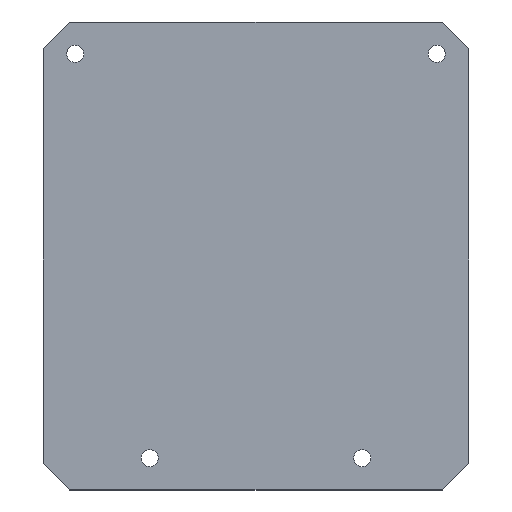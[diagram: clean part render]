
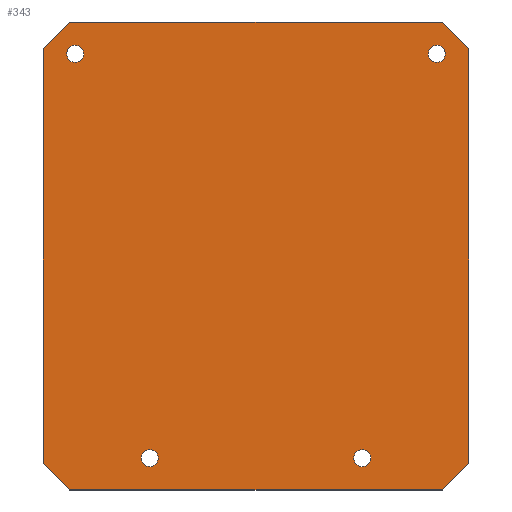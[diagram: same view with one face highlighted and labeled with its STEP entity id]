
A CAD part, top view. The second image highlights one B-rep face of the part: STEP entity #343.
In plain terms, the highlighted planar face has unit normal (0, 0, 1).
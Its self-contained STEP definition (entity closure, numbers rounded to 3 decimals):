
#2 = CARTESIAN_POINT ( 'NONE',  ( 41.5, -44.5, 1.6 ) ) ;
#4 = DIRECTION ( 'NONE',  ( 0., 0., 1. ) ) ;
#8 = FACE_BOUND ( 'NONE', #448, .T. ) ;
#10 = DIRECTION ( 'NONE',  ( 0., -1., 0. ) ) ;
#18 = CARTESIAN_POINT ( 'NONE',  ( 33.9, 32.5, 1.6 ) ) ;
#33 = DIRECTION ( 'NONE',  ( 1., 0., 0. ) ) ;
#46 = CARTESIAN_POINT ( 'NONE',  ( -18.5, -43.5, 1.6 ) ) ;
#49 = CIRCLE ( 'NONE', #148, 1.6 ) ;
#55 = CARTESIAN_POINT ( 'NONE',  ( -30.9, 32.5, 1.6 ) ) ;
#59 = AXIS2_PLACEMENT_3D ( 'NONE', #337, #92, #33 ) ;
#79 = VECTOR ( 'NONE', #356, 1000. ) ;
#81 = AXIS2_PLACEMENT_3D ( 'NONE', #145, #344, #298 ) ;
#88 = CARTESIAN_POINT ( 'NONE',  ( 21.5, -43.5, 1.6 ) ) ;
#92 = DIRECTION ( 'NONE',  ( 0., 0., 1. ) ) ;
#93 = ORIENTED_EDGE ( 'NONE', *, *, #279, .F. ) ;
#99 = ORIENTED_EDGE ( 'NONE', *, *, #581, .T. ) ;
#101 = ORIENTED_EDGE ( 'NONE', *, *, #208, .T. ) ;
#105 = EDGE_LOOP ( 'NONE', ( #472, #650 ) ) ;
#108 = DIRECTION ( 'NONE',  ( 0., 1., 0. ) ) ;
#115 = CIRCLE ( 'NONE', #602, 1.6 ) ;
#122 = DIRECTION ( 'NONE',  ( 1., 0., 0. ) ) ;
#124 = ORIENTED_EDGE ( 'NONE', *, *, #358, .T. ) ;
#132 = DIRECTION ( 'NONE',  ( 1., 0., 0. ) ) ;
#142 = CARTESIAN_POINT ( 'NONE',  ( 36.5, -49.5, 1.6 ) ) ;
#145 = CARTESIAN_POINT ( 'NONE',  ( -32.5, 32.5, 1.6 ) ) ;
#148 = AXIS2_PLACEMENT_3D ( 'NONE', #552, #605, #244 ) ;
#158 = VERTEX_POINT ( 'NONE', #18 ) ;
#160 = LINE ( 'NONE', #2, #446 ) ;
#175 = EDGE_CURVE ( 'NONE', #376, #586, #115, .T. ) ;
#186 = VERTEX_POINT ( 'NONE', #200 ) ;
#190 = VERTEX_POINT ( 'NONE', #289 ) ;
#193 = VERTEX_POINT ( 'NONE', #195 ) ;
#194 = VECTOR ( 'NONE', #502, 1000. ) ;
#195 = CARTESIAN_POINT ( 'NONE',  ( -33.5, -49.5, 1.6 ) ) ;
#196 = CARTESIAN_POINT ( 'NONE',  ( 41.5, 33.5, 1.6 ) ) ;
#200 = CARTESIAN_POINT ( 'NONE',  ( 23.1, -43.5, 1.6 ) ) ;
#201 = VECTOR ( 'NONE', #10, 1000. ) ;
#207 = DIRECTION ( 'NONE',  ( 1., 0., 0. ) ) ;
#208 = EDGE_CURVE ( 'NONE', #374, #566, #494, .T. ) ;
#214 = CARTESIAN_POINT ( 'NONE',  ( 36.5, 38.5, 1.6 ) ) ;
#218 = CARTESIAN_POINT ( 'NONE',  ( -20.1, -43.5, 1.6 ) ) ;
#225 = CIRCLE ( 'NONE', #623, 1.6 ) ;
#230 = EDGE_CURVE ( 'NONE', #186, #190, #449, .T. ) ;
#237 = EDGE_CURVE ( 'NONE', #616, #158, #49, .T. ) ;
#238 = CARTESIAN_POINT ( 'NONE',  ( 21.5, -43.5, 1.6 ) ) ;
#241 = DIRECTION ( 'NONE',  ( 0., 0., 1. ) ) ;
#242 = DIRECTION ( 'NONE',  ( 0.707, 0.707, 0. ) ) ;
#244 = DIRECTION ( 'NONE',  ( 1., 0., 0. ) ) ;
#246 = EDGE_LOOP ( 'NONE', ( #291, #93 ) ) ;
#251 = EDGE_LOOP ( 'NONE', ( #559, #364, #99, #594, #300, #101, #464, #124 ) ) ;
#256 = LINE ( 'NONE', #558, #79 ) ;
#267 = LINE ( 'NONE', #465, #201 ) ;
#271 = LINE ( 'NONE', #576, #454 ) ;
#279 = EDGE_CURVE ( 'NONE', #391, #420, #281, .T. ) ;
#278 = CIRCLE ( 'NONE', #365, 1.6 ) ;
#281 = CIRCLE ( 'NONE', #81, 1.6 ) ;
#284 = VERTEX_POINT ( 'NONE', #548 ) ;
#287 = DIRECTION ( 'NONE',  ( 0., 0., 1. ) ) ;
#289 = CARTESIAN_POINT ( 'NONE',  ( 19.9, -43.5, 1.6 ) ) ;
#291 = ORIENTED_EDGE ( 'NONE', *, *, #316, .F. ) ;
#296 = CARTESIAN_POINT ( 'NONE',  ( -38.5, -44.5, 1.6 ) ) ;
#298 = DIRECTION ( 'NONE',  ( 1., 0., 0. ) ) ;
#300 = ORIENTED_EDGE ( 'NONE', *, *, #553, .T. ) ;
#310 = CARTESIAN_POINT ( 'NONE',  ( -38.5, -44.5, 1.6 ) ) ;
#313 = VECTOR ( 'NONE', #540, 1000. ) ;
#316 = EDGE_CURVE ( 'NONE', #420, #391, #535, .T. ) ;
#317 = ORIENTED_EDGE ( 'NONE', *, *, #533, .F. ) ;
#328 = VECTOR ( 'NONE', #436, 1000. ) ;
#332 = DIRECTION ( 'NONE',  ( 0., 0., 1. ) ) ;
#334 = LINE ( 'NONE', #196, #328 ) ;
#336 = CARTESIAN_POINT ( 'NONE',  ( 36.5, 38.5, 1.6 ) ) ;
#337 = CARTESIAN_POINT ( 'NONE',  ( 35.5, 32.5, 1.6 ) ) ;
#343 = ADVANCED_FACE ( 'NONE', ( #8, #516, #408, #615, #571 ), #608, .T. ) ;
#344 = DIRECTION ( 'NONE',  ( 0., 0., 1. ) ) ;
#348 = DIRECTION ( 'NONE',  ( 1., 0., 0. ) ) ;
#355 = DIRECTION ( 'NONE',  ( 0., 0., 1. ) ) ;
#356 = DIRECTION ( 'NONE',  ( -0.707, -0.707, 0. ) ) ;
#358 = EDGE_CURVE ( 'NONE', #387, #434, #267, .T. ) ;
#364 = ORIENTED_EDGE ( 'NONE', *, *, #462, .T. ) ;
#365 = AXIS2_PLACEMENT_3D ( 'NONE', #609, #463, #417 ) ;
#374 = VERTEX_POINT ( 'NONE', #214 ) ;
#376 = VERTEX_POINT ( 'NONE', #218 ) ;
#387 = VERTEX_POINT ( 'NONE', #621 ) ;
#391 = VERTEX_POINT ( 'NONE', #55 ) ;
#408 = FACE_OUTER_BOUND ( 'NONE', #251, .T. ) ;
#412 = CARTESIAN_POINT ( 'NONE',  ( 37.1, 32.5, 1.6 ) ) ;
#417 = DIRECTION ( 'NONE',  ( 1., 0., 0. ) ) ;
#420 = VERTEX_POINT ( 'NONE', #461 ) ;
#434 = VERTEX_POINT ( 'NONE', #310 ) ;
#436 = DIRECTION ( 'NONE',  ( -0.707, 0.707, 0. ) ) ;
#440 = CARTESIAN_POINT ( 'NONE',  ( 36.5, -49.5, 1.6 ) ) ;
#446 = VECTOR ( 'NONE', #108, 1000. ) ;
#447 = CARTESIAN_POINT ( 'NONE',  ( 41.5, -44.5, 1.6 ) ) ;
#448 = EDGE_LOOP ( 'NONE', ( #514, #601 ) ) ;
#449 = CIRCLE ( 'NONE', #661, 1.6 ) ;
#454 = VECTOR ( 'NONE', #122, 1000. ) ;
#461 = CARTESIAN_POINT ( 'NONE',  ( -34.1, 32.5, 1.6 ) ) ;
#462 = EDGE_CURVE ( 'NONE', #193, #587, #271, .T. ) ;
#463 = DIRECTION ( 'NONE',  ( 0., 0., 1. ) ) ;
#464 = ORIENTED_EDGE ( 'NONE', *, *, #644, .T. ) ;
#465 = CARTESIAN_POINT ( 'NONE',  ( -38.5, 33.5, 1.6 ) ) ;
#470 = CARTESIAN_POINT ( 'NONE',  ( 0., 0., 1.6 ) ) ;
#472 = ORIENTED_EDGE ( 'NONE', *, *, #517, .F. ) ;
#476 = AXIS2_PLACEMENT_3D ( 'NONE', #470, #4, #612 ) ;
#488 = CARTESIAN_POINT ( 'NONE',  ( -33.5, 38.5, 1.6 ) ) ;
#491 = LINE ( 'NONE', #440, #634 ) ;
#494 = LINE ( 'NONE', #336, #313 ) ;
#495 = LINE ( 'NONE', #296, #194 ) ;
#502 = DIRECTION ( 'NONE',  ( 0.707, -0.707, 0. ) ) ;
#514 = ORIENTED_EDGE ( 'NONE', *, *, #175, .F. ) ;
#516 = FACE_BOUND ( 'NONE', #246, .T. ) ;
#517 = EDGE_CURVE ( 'NONE', #158, #616, #598, .T. ) ;
#521 = CARTESIAN_POINT ( 'NONE',  ( -32.5, 32.5, 1.6 ) ) ;
#533 = EDGE_CURVE ( 'NONE', #190, #186, #225, .T. ) ;
#535 = CIRCLE ( 'NONE', #627, 1.6 ) ;
#540 = DIRECTION ( 'NONE',  ( -1., 0., 0. ) ) ;
#543 = EDGE_CURVE ( 'NONE', #434, #193, #495, .T. ) ;
#548 = CARTESIAN_POINT ( 'NONE',  ( 41.5, 33.5, 1.6 ) ) ;
#549 = DIRECTION ( 'NONE',  ( 1., 0., 0. ) ) ;
#552 = CARTESIAN_POINT ( 'NONE',  ( 35.5, 32.5, 1.6 ) ) ;
#553 = EDGE_CURVE ( 'NONE', #284, #374, #334, .T. ) ;
#558 = CARTESIAN_POINT ( 'NONE',  ( -33.5, 38.5, 1.6 ) ) ;
#559 = ORIENTED_EDGE ( 'NONE', *, *, #543, .T. ) ;
#566 = VERTEX_POINT ( 'NONE', #488 ) ;
#571 = FACE_BOUND ( 'NONE', #632, .T. ) ;
#576 = CARTESIAN_POINT ( 'NONE',  ( -33.5, -49.5, 1.6 ) ) ;
#581 = EDGE_CURVE ( 'NONE', #587, #614, #491, .T. ) ;
#586 = VERTEX_POINT ( 'NONE', #596 ) ;
#587 = VERTEX_POINT ( 'NONE', #142 ) ;
#594 = ORIENTED_EDGE ( 'NONE', *, *, #660, .T. ) ;
#596 = CARTESIAN_POINT ( 'NONE',  ( -16.9, -43.5, 1.6 ) ) ;
#598 = CIRCLE ( 'NONE', #59, 1.6 ) ;
#601 = ORIENTED_EDGE ( 'NONE', *, *, #637, .F. ) ;
#602 = AXIS2_PLACEMENT_3D ( 'NONE', #46, #332, #132 ) ;
#605 = DIRECTION ( 'NONE',  ( 0., 0., 1. ) ) ;
#608 = PLANE ( 'NONE',  #476 ) ;
#609 = CARTESIAN_POINT ( 'NONE',  ( -18.5, -43.5, 1.6 ) ) ;
#612 = DIRECTION ( 'NONE',  ( 1., 0., 0. ) ) ;
#614 = VERTEX_POINT ( 'NONE', #447 ) ;
#615 = FACE_BOUND ( 'NONE', #105, .T. ) ;
#616 = VERTEX_POINT ( 'NONE', #412 ) ;
#621 = CARTESIAN_POINT ( 'NONE',  ( -38.5, 33.5, 1.6 ) ) ;
#622 = ORIENTED_EDGE ( 'NONE', *, *, #230, .F. ) ;
#623 = AXIS2_PLACEMENT_3D ( 'NONE', #88, #287, #549 ) ;
#627 = AXIS2_PLACEMENT_3D ( 'NONE', #521, #355, #207 ) ;
#632 = EDGE_LOOP ( 'NONE', ( #317, #622 ) ) ;
#634 = VECTOR ( 'NONE', #242, 1000. ) ;
#637 = EDGE_CURVE ( 'NONE', #586, #376, #278, .T. ) ;
#644 = EDGE_CURVE ( 'NONE', #566, #387, #256, .T. ) ;
#650 = ORIENTED_EDGE ( 'NONE', *, *, #237, .F. ) ;
#660 = EDGE_CURVE ( 'NONE', #614, #284, #160, .T. ) ;
#661 = AXIS2_PLACEMENT_3D ( 'NONE', #238, #241, #348 ) ;
